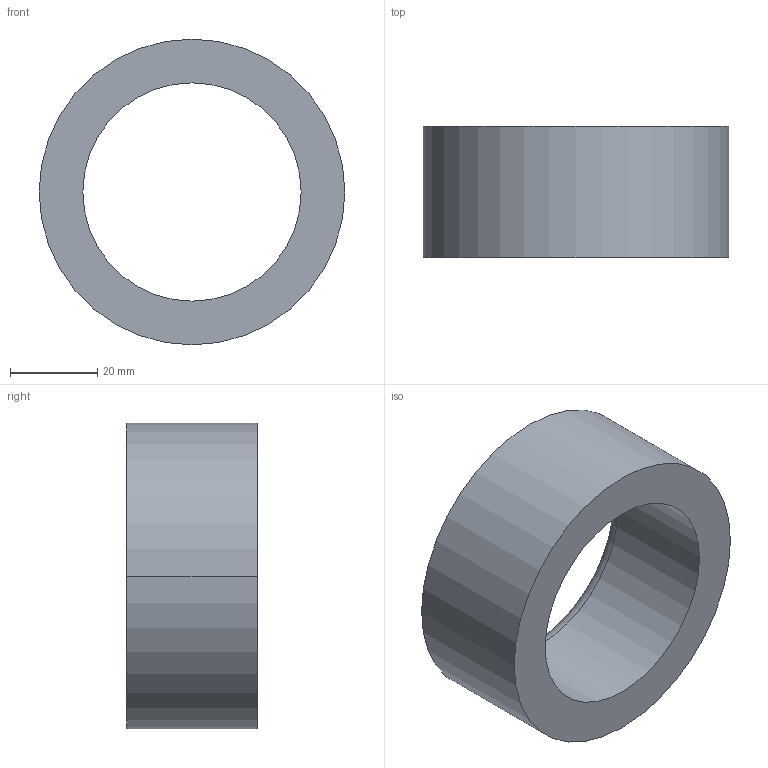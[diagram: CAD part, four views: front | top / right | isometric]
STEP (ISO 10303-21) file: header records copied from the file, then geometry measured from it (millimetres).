
FILE_DESCRIPTION (( 'STEP AP203' ), '1' );
FILE_NAME ('30800.WPP70L50.0.step', '2019-01-23T22:59:32', ( '' ), ( '' ), 'SwSTEP 2.0', 'SolidWorks 2017', '' );
FILE_SCHEMA (( 'CONFIG_CONTROL_DESIGN' ));
Length unit declared in the file: millimetre
Products named in the file (1): 30800.WPP70L50.0
Bounding box: 70 x 30 x 70 mm (x, y, z)
Volume: 56122.8 mm3; surface area: 14849.1 mm2
Topology: 1 solids, 1 shells, 8 faces, 16 edges, 10 vertices
Faces by surface type: cylinder 4, torus 2, plane 2
Entity records: 297 total; most frequent: DIRECTION 46, CARTESIAN_POINT 35, ORIENTED_EDGE 32, AXIS2_PLACEMENT_3D 21, EDGE_CURVE 16, CIRCLE 12, EDGE_LOOP 10, VERTEX_POINT 10
